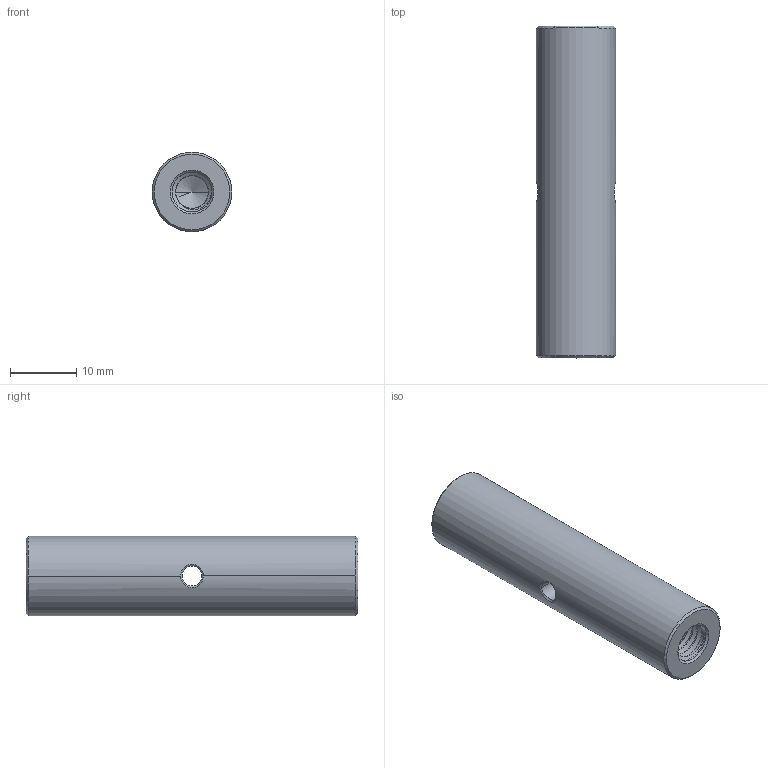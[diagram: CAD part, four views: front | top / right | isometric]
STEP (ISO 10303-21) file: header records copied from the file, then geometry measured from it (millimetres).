
FILE_DESCRIPTION((''),'2;1');
FILE_NAME('PCA5-S1','2020-12-11T',('Administrator'),(''),'CREO PARAMETRIC BY PTC INC, 2015290','CREO PARAMETRIC BY PTC INC, 2015290','');
FILE_SCHEMA(('CONFIG_CONTROL_DESIGN'));
Length unit declared in the file: millimetre
Products named in the file (1): PCA5-S1
Bounding box: 12 x 50 x 12 mm (x, y, z)
Volume: 5260.9 mm3; surface area: 2539.5 mm2
Topology: 1 solids, 1 shells, 76 faces, 204 edges, 126 vertices
Faces by surface type: cylinder 39, bspline 22, cone 12, plane 3
Entity records: 5648 total; most frequent: CARTESIAN_POINT 3995, ORIENTED_EDGE 400, DIRECTION 224, EDGE_CURVE 200, VERTEX_POINT 126, B_SPLINE_CURVE_WITH_KNOTS 105, EDGE_LOOP 78, FACE_OUTER_BOUND 76
